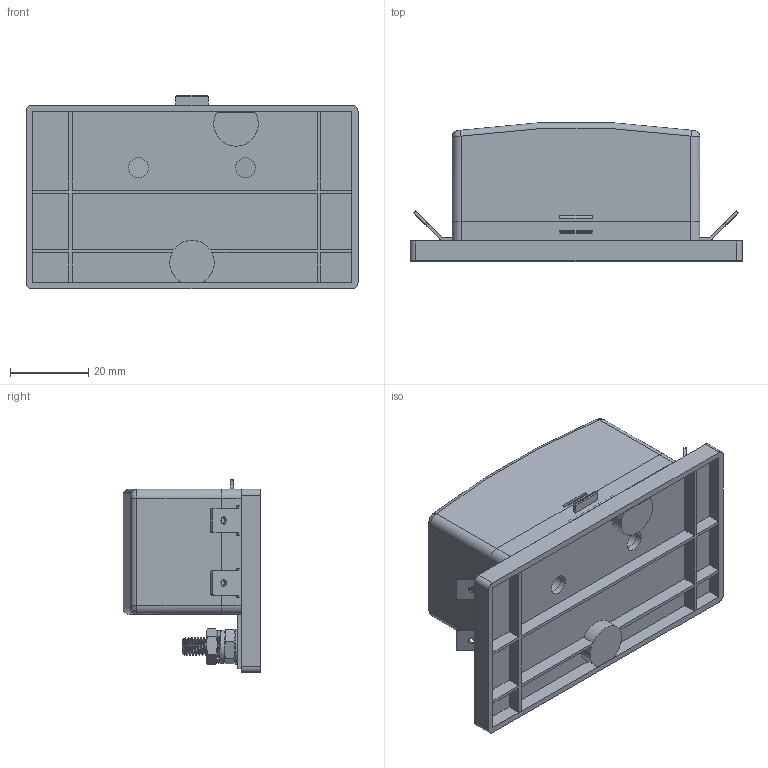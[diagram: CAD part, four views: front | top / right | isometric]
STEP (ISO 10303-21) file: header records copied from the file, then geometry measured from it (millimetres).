
FILE_DESCRIPTION(/* description */ (''),/* implementation_level */ '2;1');
FILE_NAME(/* name */ 'C:\Users\Hani\Desktop\work\BLR-304\BLR-I-304.stp',/* time_stamp */ '2021-07-07T11:48:26-07:00',/* author */ ('Hani'),/* organization */ (''),/* preprocessor_version */ 'ST-DEVELOPER v17',/* originating_system */ 'Autodesk Inventor 2019',/* authorisation */ '');
FILE_SCHEMA (('AUTOMOTIVE_DESIGN { 1 0 10303 214 3 1 1 }'));
Length unit declared in the file: inch
Products named in the file (11): BLR-I-304; BLR-304; BLR-I-304-BLOCK; plate2; STUD; WASHER; LOCK WASHER; HEX NUT; terminal; terminal_MIR1; BLR-304-Cover
Assembly tree (13 placements, depth 2):
  BLR-I-304
    BLR-304
    BLR-I-304-BLOCK
    plate2
    STUD
    WASHER
    LOCK WASHER
    HEX NUT  x2
    terminal  x2
    terminal_MIR1  x2
    BLR-304-Cover
Bounding box: 85.09 x 35.33 x 49.53 mm (x, y, z)
Volume: 45154.3 mm3; surface area: 37936.3 mm2
Topology: 13 solids, 13 shells, 797 faces, 2066 edges, 1338 vertices
Faces by surface type: plane 461, cylinder 128, bspline 119, cone 64, torus 21, sphere 4
Full cylindrical faces by diameter (mm): 1.905 x4, 2.718 x4, 3.769 x16, 3.795 x2, 4.775 x1, 4.801 x17, 4.826 x6, 4.953 x1, 5.08 x2, 5.085 x2, 8.992 x1, 9.779 x2
Entity records: 27768 total; most frequent: CARTESIAN_POINT 10145, ORIENTED_EDGE 3806, DIRECTION 3146, EDGE_CURVE 1903, LINE 1252, VECTOR 1252, VERTEX_POINT 1236, AXIS2_PLACEMENT_3D 947
